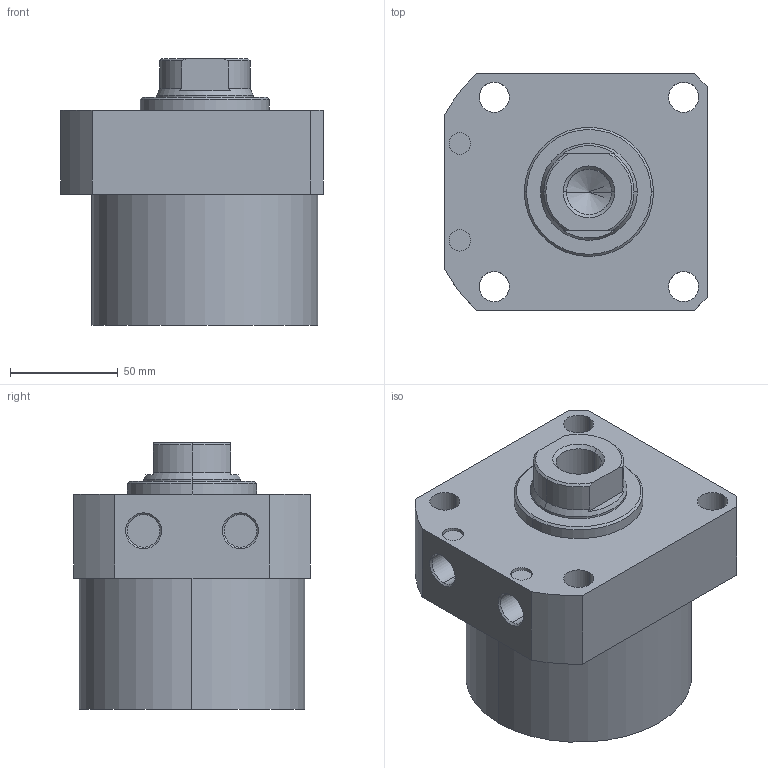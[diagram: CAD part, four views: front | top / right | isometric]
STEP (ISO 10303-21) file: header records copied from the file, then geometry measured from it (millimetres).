
FILE_DESCRIPTION (( 'STEP AP203' ), '1' );
FILE_NAME ('CLLR-105CA-040.STEP', '2019-12-19T01:30:48', ( '' ), ( '' ), 'SwSTEP 2.0', 'SolidWorks 2015', '' );
FILE_SCHEMA (( 'CONFIG_CONTROL_DESIGN' ));
Length unit declared in the file: millimetre
Products named in the file (1): CLLR-105CA-040
Bounding box: 122 x 110 x 124 mm (x, y, z)
Volume: 1030707.6 mm3; surface area: 77899.6 mm2
Topology: 1 solids, 1 shells, 63 faces, 148 edges, 93 vertices
Faces by surface type: cylinder 29, plane 19, cone 15
Entity records: 1909 total; most frequent: DIRECTION 338, CARTESIAN_POINT 327, ORIENTED_EDGE 292, EDGE_CURVE 146, AXIS2_PLACEMENT_3D 136, VERTEX_POINT 93, EDGE_LOOP 79, CIRCLE 72
